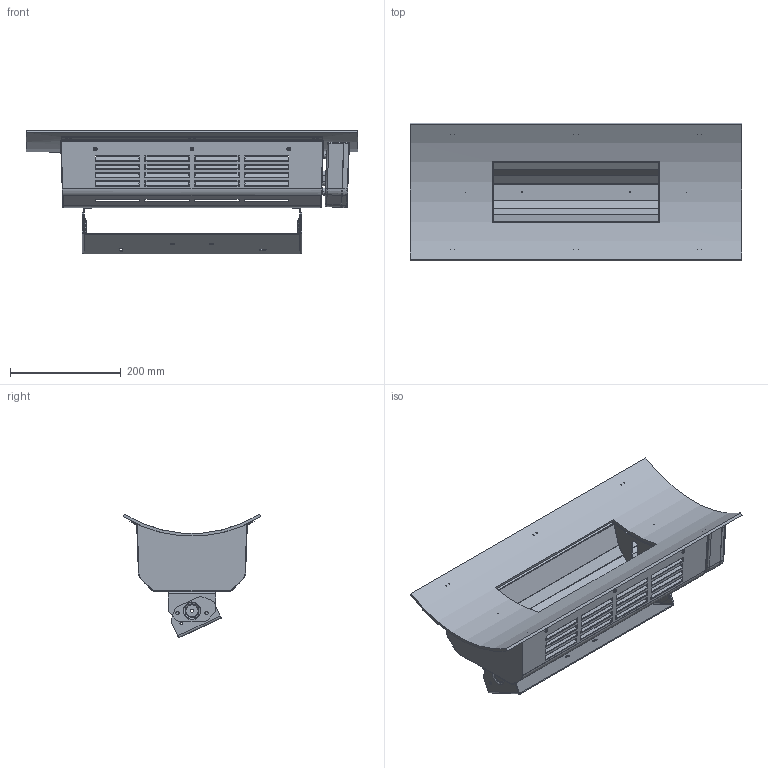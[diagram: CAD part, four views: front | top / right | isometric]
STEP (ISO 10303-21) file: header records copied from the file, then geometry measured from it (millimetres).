
FILE_DESCRIPTION(('FreeCAD Model'),'2;1');
FILE_NAME('Open CASCADE Shape Model','2026-06-17T13:55:24',(''),(''), 'Open CASCADE STEP processor 7.8','FreeCAD','Unknown');
FILE_SCHEMA(('AUTOMOTIVE_DESIGN { 1 0 10303 214 1 1 1 1 }'));
Length unit declared in the file: millimetre
Products named in the file (21): Oasi_ht; CLO_GR-POSTERIORE_ASM; CLO_POSTERIORE; CLO_GR-PARABOLA-INFRAROSSI_ASM; CLO_PARABOLA-INFRAROSSI; CLO_FIANCHETTO-PARABOLA-INFRA; CLO_FIANCHETTO-PARABOLA-INFRA001; CLO_GR-SCATOLA-ESTERNA_ASM; CLO_BASE-SCATOLA-EST; CLO_COPERCHIO-SCATOLA-EST; CLO_GR-FRONTALE_NEW_ASM; CLO_FRONTALE_NEW; SOLID012; COMPOUND; CLO_COPERCHIO-PROGRAM; CLO_GR-SNODO_ASM; CLO_SNODO; CLO_GR-SNODO_ASM001; CLO_SNODO001; CLO_GR-STAFFA-MURO_ASM; CLO_STAFFA-MURO
Assembly tree (20 placements, depth 4):
  Oasi_ht
    CLO_GR-POSTERIORE_ASM
      CLO_POSTERIORE
    CLO_GR-PARABOLA-INFRAROSSI_ASM
      CLO_PARABOLA-INFRAROSSI
      CLO_FIANCHETTO-PARABOLA-INFRA
      CLO_FIANCHETTO-PARABOLA-INFRA001
    CLO_GR-SCATOLA-ESTERNA_ASM
      CLO_BASE-SCATOLA-EST
      CLO_COPERCHIO-SCATOLA-EST
    CLO_GR-FRONTALE_NEW_ASM
      CLO_FRONTALE_NEW
        SOLID012
        COMPOUND
    CLO_COPERCHIO-PROGRAM
    CLO_GR-SNODO_ASM
      CLO_SNODO
    CLO_GR-SNODO_ASM001
      CLO_SNODO001
    CLO_GR-STAFFA-MURO_ASM
      CLO_STAFFA-MURO
Bounding box: 600 x 249.3 x 223.78 mm (x, y, z)
Volume: 1169132.5 mm3; surface area: 1169660 mm2
Topology: 11 solids, 19 shells, 2362 faces, 5788 edges, 3819 vertices
Faces by surface type: plane 1193, cylinder 504, cone 343, bspline 163, torus 151, sphere 8
Entity records: 77335 total; most frequent: CARTESIAN_POINT 21414, ORIENTED_EDGE 11296, DIRECTION 11117, EDGE_CURVE 5664, AXIS2_PLACEMENT_3D 3800, LINE 3517, VECTOR 3517, VERTEX_POINT 3435
